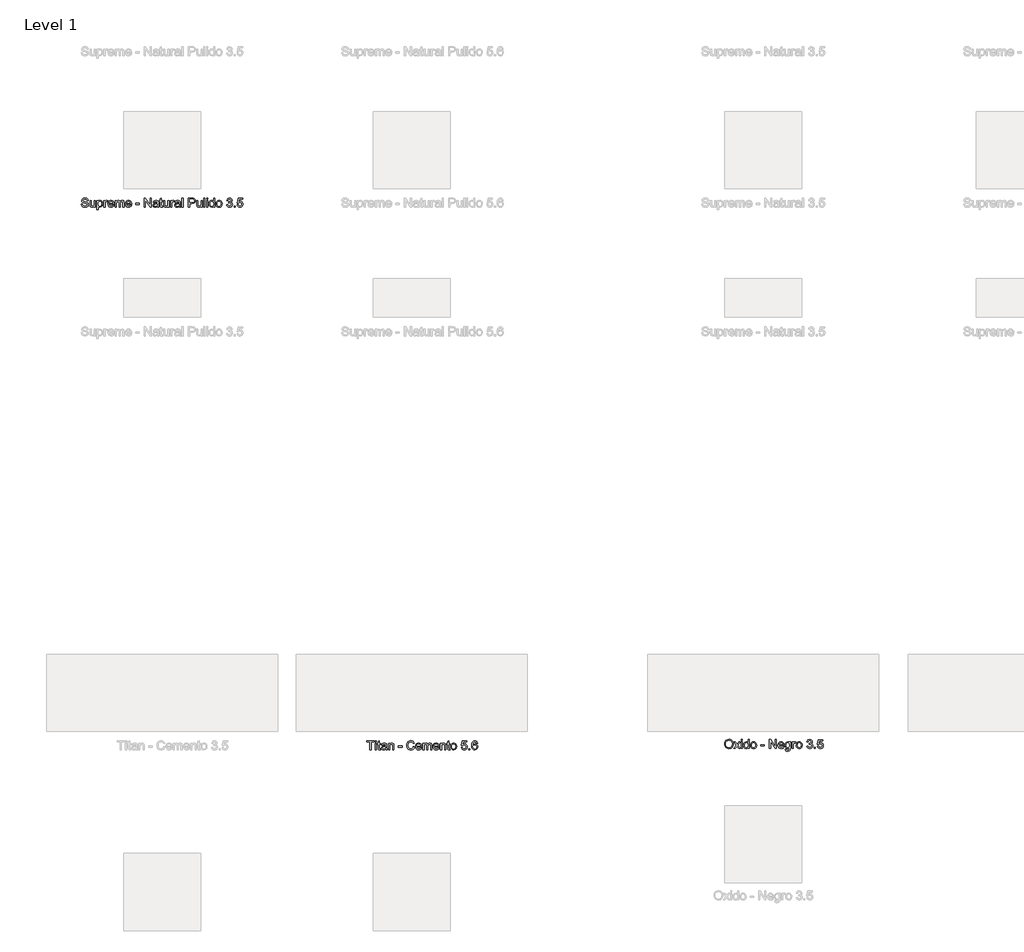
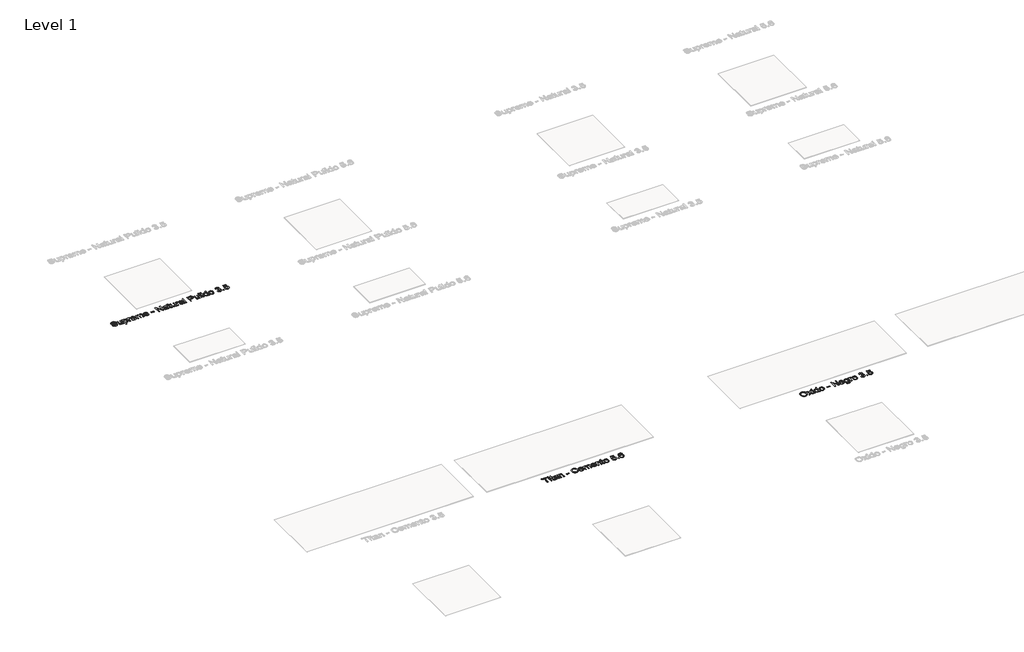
# One storey, part 36 of 80: 3 proxies.
"""IFC4 building model written with IfcOpenShell, lengths in millimetres."""

import ifcopenshell
import ifcopenshell.guid

model = None  # the IFC model being written
_history = None  # IfcOwnerHistory: only IFC2X3 demands one
_inside = {}  # id of a spatial element -> (the spatial element, [elements in it])
_under = {}  # id of a project, library or spatial element -> (it, [spatial elements below it])
_declared = {}  # id of a project -> (the project, [libraries it declares])
_typed = {}  # id of a type object -> (the type object, [elements of that type])
_made_of = {}  # id of a material, layer set ... -> (it, [elements and type objects made of it])


def new_model(schema):
    """Start an empty IFC model of exactly this schema.

    Asked for "IFC4X3", IfcOpenShell would pick the latest addendum, in which some entities
    have other attributes; the version numbers below select the first issue.
    IFC2X3 requires an IfcOwnerHistory on every rooted entity: one is made here for all.
    """
    global model, _history
    if schema == "IFC4X3":
        model = ifcopenshell.file(schema_version=(4, 3, 0, 0))
    else:
        model = ifcopenshell.file(schema=schema)
    _inside.clear()
    _under.clear()
    _declared.clear()
    _typed.clear()
    _made_of.clear()
    _history = None
    if model.schema == "IFC2X3":
        org = make("IfcOrganization", Name="unknown")
        user = make(
            "IfcPersonAndOrganization",
            ThePerson=make("IfcPerson", FamilyName="unknown"),
            TheOrganization=org,
        )
        app = make(
            "IfcApplication",
            ApplicationDeveloper=org,
            Version="unknown",
            ApplicationFullName="unknown",
            ApplicationIdentifier="unknown",
        )
        _history = make(
            "IfcOwnerHistory",
            OwningUser=user,
            OwningApplication=app,
            ChangeAction="ADDED",
            CreationDate=0,
        )
    return model


def make(cls, **values):
    """One entity of the class cls with the attributes given. An attribute that is None is left unset."""
    return model.create_entity(
        cls, **{name: value for name, value in values.items() if value is not None}
    )


def rooted(cls, **values):
    """An entity with a GlobalId (a new one), such as an element, a storey or a relation."""
    return make(cls, GlobalId=ifcopenshell.guid.new(), OwnerHistory=_history, **values)


def si_unit(unit_type, name, prefix=None):
    """IfcSIUnit, for example si_unit("LENGTHUNIT", "METRE", prefix="MILLI")."""
    return make("IfcSIUnit", UnitType=unit_type, Prefix=prefix, Name=name)


def assignment(units):
    """IfcUnitAssignment: the units of a project."""
    return None if units is None else make("IfcUnitAssignment", Units=units)


def point(xyz):
    """IfcCartesianPoint."""
    return None if xyz is None else make("IfcCartesianPoint", Coordinates=xyz)


def direction(xyz):
    """IfcDirection."""
    return None if xyz is None else make("IfcDirection", DirectionRatios=xyz)


def frame(location, z_axis=None, x_axis=None):
    """IfcAxis2Placement3D, a coordinate frame: its origin and axes. An axis left out is left unset."""
    return make(
        "IfcAxis2Placement3D",
        Location=point(location),
        Axis=direction(z_axis),
        RefDirection=direction(x_axis),
    )


def origin():
    """The frame at (0, 0, 0) with its axes left unset."""
    return frame((0.0, 0.0, 0.0))


def origin_with_axes():
    """The frame at (0, 0, 0) with the z axis (0, 0, 1) and the x axis (1, 0, 0) written out."""
    return frame((0.0, 0.0, 0.0), z_axis=(0.0, 0.0, 1.0), x_axis=(1.0, 0.0, 0.0))


def place(relative_to, where):
    """IfcLocalPlacement: puts the frame where relative to a parent placement (None: the world)."""
    return make(
        "IfcLocalPlacement", PlacementRelTo=relative_to, RelativePlacement=where
    )


def context(
    kind, dimensions, precision=None, world=None, true_north=None, identifier=None
):
    """IfcGeometricRepresentationContext, for example the 3D "Model" context."""
    return make(
        "IfcGeometricRepresentationContext",
        ContextIdentifier=identifier,
        ContextType=kind,
        CoordinateSpaceDimension=dimensions,
        Precision=precision,
        WorldCoordinateSystem=world,
        TrueNorth=true_north,
    )


def project(units=None, contexts=None):
    """IfcProject with its units and contexts."""
    return rooted(
        "IfcProject",
        Name="project",
        RepresentationContexts=contexts,
        UnitsInContext=assignment(units),
    )


def spatial(cls, under=None, at=None, **own):
    """A site, building, storey or space (cls), placed at a placement, below another one or the project."""
    s = rooted(cls, ObjectPlacement=at, **own)
    if under is not None:
        _under.setdefault(under.id(), (under, []))[1].append(s)
    return s


def polyline(points):
    """IfcPolyline through the points."""
    return make("IfcPolyline", Points=[point(p) for p in points])


def outline(outer, holes=None, kind="AREA"):
    """IfcArbitraryClosedProfileDef: a profile drawn as a closed curve; with holes, ...WithVoids."""
    if holes is None:
        return make("IfcArbitraryClosedProfileDef", ProfileType=kind, OuterCurve=outer)
    return make(
        "IfcArbitraryProfileDefWithVoids",
        ProfileType=kind,
        OuterCurve=outer,
        InnerCurves=holes,
    )


def extrude(swept, where, along, depth):
    """IfcExtrudedAreaSolid: the profile swept, set in the frame where, extruded along a direction by depth."""
    return make(
        "IfcExtrudedAreaSolid",
        SweptArea=swept,
        Position=where,
        ExtrudedDirection=direction(along),
        Depth=depth,
    )


def shape(context_of_items, identifier, shape_type, items):
    """IfcShapeRepresentation: the items that make up one representation, for example the "Body"."""
    return make(
        "IfcShapeRepresentation",
        ContextOfItems=context_of_items,
        RepresentationIdentifier=identifier,
        RepresentationType=shape_type,
        Items=items,
    )


def made_of(thing, what):
    """Note that an element or type object is made of a material, layer set ...; save() writes the relation."""
    if what is not None:
        _made_of.setdefault(what.id(), (what, []))[1].append(thing)
    return thing


def element(
    cls,
    number,
    at=None,
    inside=None,
    cuts=None,
    type_object=None,
    material=None,
    context=None,
    identifier="Body",
    shape_type=None,
    held_by="IfcProductDefinitionShape",
    body=None,
    shapes=None,
    **own,
):
    """One element of the class cls, such as IfcWall. Its Tag is "e" and its number.

    at: its placement. inside: the storey or other place that contains it. cuts: it is an
    opening in that element (IfcRelVoidsElement). A single representation is given by context,
    identifier, shape_type and body (its items); several are given by shapes. held_by: the class
    of the entity that holds the representations. save() writes the other relations.
    """
    e = rooted(cls, Tag="e%d" % number, ObjectPlacement=at, **own)
    if body is not None:
        shapes = [shape(context, identifier, shape_type, body)]
    if shapes is not None:
        e.Representation = make(held_by, Representations=shapes)
    if inside is not None:
        _inside.setdefault(inside.id(), (inside, []))[1].append(e)
    if cuts is not None:
        rooted(
            "IfcRelVoidsElement", RelatingBuildingElement=cuts, RelatedOpeningElement=e
        )
    if type_object is not None:
        _typed.setdefault(type_object.id(), (type_object, []))[1].append(e)
    return made_of(e, material)


def aggregate(whole, parts):
    """IfcRelAggregates: a whole, such as a stair, and the parts it consists of."""
    return rooted("IfcRelAggregates", RelatingObject=whole, RelatedObjects=parts)


def save(model, path):
    """Write the relations noted so far, then the file.

    IfcRelAggregates (storeys below a building ...), IfcRelContainedInSpatialStructure (elements
    in a storey), IfcRelDefinesByType, IfcRelAssociatesMaterial and IfcRelDeclares: one each for
    every whole, place, type object, material and project.
    """
    for whole, parts in _under.values():
        aggregate(whole, parts)
    for where, things in _inside.values():
        rooted(
            "IfcRelContainedInSpatialStructure",
            RelatedElements=things,
            RelatingStructure=where,
        )
    for kind, things in _typed.values():
        rooted("IfcRelDefinesByType", RelatedObjects=things, RelatingType=kind)
    for what, things in _made_of.values():
        rooted("IfcRelAssociatesMaterial", RelatedObjects=things, RelatingMaterial=what)
    for by, libraries in _declared.values():
        rooted("IfcRelDeclares", RelatingContext=by, RelatedDefinitions=libraries)
    model.write(path)


model = new_model("IFC4")

# Units and contexts
model_context = context("Model", 3, world=origin())
ifc_project = project(units=[si_unit("LENGTHUNIT", "METRE", prefix="MILLI")], contexts=[model_context])

# Site, building, storey
site = spatial("IfcSite", under=ifc_project)
building = spatial("IfcBuilding", under=site)
storey = spatial("IfcBuildingStorey", under=building, Name="Level 1", Elevation=0.0)

# Proxies
placement = place(None, origin())
element("IfcBuildingElementProxy", 1, Name="24\" Arial", ObjectType="24\" Arial", at=placement, inside=storey, context=model_context, shape_type="SweptSolid", body=[
    extrude(outline(polyline([(8229.846969, -7661.3584739), (8229.846969, -7557.9738585), (8191.0777383, -7557.9738585), (8191.0777383, -7543.2046277), (8283.3854306, -7543.2046277), (8283.3854306, -7557.9738585), (8244.6161998, -7557.9738585), (8244.6161998, -7661.3584739), (8229.846969, -7661.3584739)])), origin_with_axes(), (0.0, 0.0, 1.0), 2.0),
    extrude(outline(polyline([(8298.1546613, -7661.3584739), (8298.1546613, -7574.5892431), (8312.9238921, -7574.5892431), (8312.9238921, -7661.3584739), (8298.1546613, -7661.3584739)])), origin_with_axes(), (0.0, 0.0, 1.0), 2.0),
    extrude(outline(polyline([(8298.1546613, -7557.9738585), (8298.1546613, -7543.2046277), (8312.9238921, -7543.2046277), (8312.9238921, -7557.9738585), (8298.1546613, -7557.9738585)])), origin_with_axes(), (0.0, 0.0, 1.0), 2.0),
    extrude(outline(polyline([(8366.4623536, -7649.0411662), (8368.3085075, -7661.7911662), (8357.2604306, -7663.2046277), (8344.8854306, -7660.7527046), (8338.7123536, -7654.3200123), (8336.9238921, -7637.560397), (8336.9238921, -7589.3584739), (8325.846969, -7589.3584739), (8325.846969, -7574.5892431), (8336.9238921, -7574.5892431), (8336.9238921, -7553.5027046), (8351.6931229, -7544.8200123), (8351.6931229, -7574.5892431), (8366.4623536, -7574.5892431), (8366.4623536, -7589.3584739), (8351.6931229, -7589.3584739), (8351.6931229, -7637.1277046), (8352.471969, -7644.7430893), (8354.9960075, -7647.4402046), (8360.0296613, -7648.435397), (8366.4623536, -7649.0411662)])), origin_with_axes(), (0.0, 0.0, 1.0), 2.0),
    extrude(outline(polyline([(8436.6161998, -7650.2815508), (8422.2940844, -7660.2911662), (8406.471969, -7663.2046277), (8394.1294209, -7661.4522239), (8385.0248536, -7656.1950123), (8379.4106709, -7648.2118393), (8377.5392767, -7638.2815508), (8380.3661998, -7626.5988585), (8387.7940844, -7618.1180893), (8398.1354306, -7613.2719354), (8410.9142767, -7611.0507816), (8436.5296613, -7605.9738585), (8436.6161998, -7602.685397), (8432.5488921, -7591.7815508), (8416.221969, -7587.51232), (8401.2796613, -7590.3536662), (8394.1546613, -7600.435397), (8379.3854306, -7598.5892431), (8385.7748536, -7584.1661662), (8398.6402383, -7575.7142431), (8418.1258152, -7572.7430893), (8436.0248536, -7575.3680893), (8446.1354306, -7581.9594354), (8450.6642767, -7591.9834739), (8451.3854306, -7604.9065508), (8451.3854306, -7623.2815508), (8452.1354306, -7648.9402046), (8455.0777383, -7661.3584739), (8440.3085075, -7661.3584739), (8436.6161998, -7650.2815508)]), holes=[polyline([(8436.6161998, -7620.7430893), (8412.7892767, -7625.2719354), (8400.0825459, -7627.6661662), (8394.3277383, -7631.560397), (8392.3085075, -7637.2430893), (8396.7075459, -7645.2334739), (8409.6161998, -7648.435397), (8424.5585075, -7644.9017431), (8434.1931229, -7636.3488585), (8436.5296613, -7624.9257816), (8436.6161998, -7620.7430893)])]), origin_with_axes(), (0.0, 0.0, 1.0), 2.0),
    extrude(outline(polyline([(8471.6931229, -7661.3584739), (8471.6931229, -7574.5892431), (8486.4623536, -7574.5892431), (8486.4623536, -7586.7046277), (8497.7556229, -7576.2334739), (8513.1738921, -7572.7430893), (8527.1210075, -7575.5555893), (8536.6402383, -7582.9402046), (8541.0681229, -7593.8007816), (8541.846969, -7608.0796277), (8541.846969, -7661.3584739), (8527.0777383, -7661.3584739), (8527.0777383, -7610.0700123), (8525.3758152, -7597.0027046), (8519.3613921, -7590.0940508), (8509.221969, -7587.51232), (8493.1979306, -7593.310397), (8488.1462479, -7601.7118393), (8486.4623536, -7615.3200123), (8486.4623536, -7661.3584739), (8471.6931229, -7661.3584739)])), origin_with_axes(), (0.0, 0.0, 1.0), 2.0),
    extrude(outline(polyline([(8600.9238921, -7626.2815508), (8600.9238921, -7611.51232), (8647.0777383, -7611.51232), (8647.0777383, -7626.2815508), (8600.9238921, -7626.2815508)])), origin_with_axes(), (0.0, 0.0, 1.0), 2.0),
    extrude(outline(polyline([(8794.7700459, -7619.3584739), (8809.5392767, -7623.1661662), (8802.7243729, -7640.3765027), (8792.0296613, -7652.94982), (8777.9815844, -7660.6409258), (8761.1065844, -7663.2046277), (8743.9755748, -7661.2647239), (8730.3710075, -7655.4450123), (8719.9431229, -7645.9474162), (8712.3421613, -7632.9738585), (8707.7015363, -7617.7214546), (8706.1546613, -7601.38732), (8707.9034594, -7584.1589546), (8713.1498536, -7569.2815508), (8721.6198056, -7557.2274643), (8733.0392767, -7548.4690508), (8746.5825459, -7543.1361181), (8761.4238921, -7541.3584739), (8777.6174017, -7543.6589546), (8791.0056229, -7550.560397), (8801.1702863, -7561.63732), (8807.6931229, -7576.4642431), (8792.9238921, -7579.9834739), (8787.8036998, -7569.2130412), (8780.8085075, -7561.82482), (8771.8517767, -7557.5519835), (8760.846969, -7556.1277046), (8748.1618729, -7557.7070316), (8737.7411998, -7562.4450123), (8729.8337479, -7569.8440508), (8724.6883152, -7579.4065508), (8720.9238921, -7601.3584739), (8725.3806229, -7626.8007816), (8731.0777383, -7636.3019835), (8739.2556229, -7643.0555893), (8759.6354306, -7648.435397), (8771.9635556, -7646.6036662), (8782.2363921, -7641.1084739), (8789.9924017, -7632.0075123), (8794.7700459, -7619.3584739)])), origin_with_axes(), (0.0, 0.0, 1.0), 2.0),
    extrude(outline(polyline([(8888.7508152, -7635.51232), (8903.2315844, -7637.3584739), (8898.0140363, -7648.2695316), (8889.6883152, -7656.4257816), (8878.4419209, -7661.5099162), (8864.4623536, -7663.2046277), (8847.1330267, -7660.2803489), (8833.7988921, -7651.5075123), (8825.2964883, -7637.4558296), (8822.4623536, -7618.6950123), (8825.3253344, -7599.3031854), (8833.9142767, -7584.8007816), (8847.0681229, -7575.7575123), (8863.6258152, -7572.7430893), (8879.6678825, -7575.7503008), (8892.4863921, -7584.7719354), (8900.8914402, -7599.2454931), (8903.6931229, -7618.6084739), (8903.6065844, -7622.5892431), (8837.2315844, -7622.5892431), (8839.7880748, -7633.6445316), (8845.7267767, -7641.7719354), (8854.2976902, -7646.7695316), (8864.7508152, -7648.435397), (8879.2315844, -7645.3488585), (8888.7508152, -7635.51232)]), holes=[polyline([(8837.2315844, -7607.8200123), (8888.9238921, -7607.8200123), (8883.0104306, -7594.435397), (8874.3998536, -7589.2430893), (8863.5681229, -7587.51232), (8845.3806229, -7593.0363585), (8839.6582671, -7599.4942912), (8837.2315844, -7607.8200123)])]), origin_with_axes(), (0.0, 0.0, 1.0), 2.0),
    extrude(outline(polyline([(8918.4623536, -7661.3584739), (8918.4623536, -7574.5892431), (8933.2315844, -7574.5892431), (8933.2315844, -7588.8680893), (8943.3854306, -7577.1709739), (8957.8373536, -7572.7430893), (8972.6354306, -7577.2575123), (8980.7700459, -7589.9065508), (8992.2940844, -7577.0339546), (9006.846969, -7572.7430893), (9017.9491325, -7574.527945), (9026.159469, -7579.8825123), (9031.2327863, -7588.951022), (9032.9238921, -7601.8777046), (9032.9238921, -7661.3584739), (9018.1546613, -7661.3584739), (9018.1546613, -7608.2238585), (9016.784469, -7595.8921277), (9011.8229306, -7589.8200123), (9003.3854306, -7587.51232), (8995.3842286, -7588.9906854), (8988.8613921, -7593.4257816), (8984.5236517, -7601.1204931), (8983.0777383, -7612.3777046), (8983.0777383, -7661.3584739), (8968.3085075, -7661.3584739), (8968.3085075, -7606.5796277), (8964.8902383, -7592.2719354), (8953.6835075, -7587.51232), (8942.7508152, -7590.685397), (8935.4815844, -7599.9738585), (8933.2315844, -7617.5988585), (8933.2315844, -7661.3584739), (8918.4623536, -7661.3584739)])), origin_with_axes(), (0.0, 0.0, 1.0), 2.0),
    extrude(outline(polyline([(9115.8277383, -7635.51232), (9130.3085075, -7637.3584739), (9125.0909594, -7648.2695316), (9116.7652383, -7656.4257816), (9105.518844, -7661.5099162), (9091.5392767, -7663.2046277), (9074.2099498, -7660.2803489), (9060.8758152, -7651.5075123), (9052.3734113, -7637.4558296), (9049.5392767, -7618.6950123), (9052.4022575, -7599.3031854), (9060.9911998, -7584.8007816), (9074.1450459, -7575.7575123), (9090.7027383, -7572.7430893), (9106.7448056, -7575.7503008), (9119.5633152, -7584.7719354), (9127.9683633, -7599.2454931), (9130.7700459, -7618.6084739), (9130.6835075, -7622.5892431), (9064.3085075, -7622.5892431), (9066.8649979, -7633.6445316), (9072.8036998, -7641.7719354), (9081.3746133, -7646.7695316), (9091.8277383, -7648.435397), (9106.3085075, -7645.3488585), (9115.8277383, -7635.51232)]), holes=[polyline([(9064.3085075, -7607.8200123), (9116.0008152, -7607.8200123), (9110.0873536, -7594.435397), (9101.4767767, -7589.2430893), (9090.6450459, -7587.51232), (9072.4575459, -7593.0363585), (9066.7351902, -7599.4942912), (9064.3085075, -7607.8200123)])]), origin_with_axes(), (0.0, 0.0, 1.0), 2.0),
    extrude(outline(polyline([(9145.5392767, -7661.3584739), (9145.5392767, -7574.5892431), (9160.3085075, -7574.5892431), (9160.3085075, -7586.7046277), (9171.6017767, -7576.2334739), (9187.0200459, -7572.7430893), (9200.9671613, -7575.5555893), (9210.4863921, -7582.9402046), (9214.9142767, -7593.8007816), (9215.6931229, -7608.0796277), (9215.6931229, -7661.3584739), (9200.9238921, -7661.3584739), (9200.9238921, -7610.0700123), (9199.221969, -7597.0027046), (9193.2075459, -7590.0940508), (9183.0681229, -7587.51232), (9167.0440844, -7593.310397), (9161.9924017, -7601.7118393), (9160.3085075, -7615.3200123), (9160.3085075, -7661.3584739), (9145.5392767, -7661.3584739)])), origin_with_axes(), (0.0, 0.0, 1.0), 2.0),
    extrude(outline(polyline([(9267.3854306, -7649.0411662), (9269.2315844, -7661.7911662), (9258.1835075, -7663.2046277), (9245.8085075, -7660.7527046), (9239.6354306, -7654.3200123), (9237.846969, -7637.560397), (9237.846969, -7589.3584739), (9226.7700459, -7589.3584739), (9226.7700459, -7574.5892431), (9237.846969, -7574.5892431), (9237.846969, -7553.5027046), (9252.6161998, -7544.8200123), (9252.6161998, -7574.5892431), (9267.3854306, -7574.5892431), (9267.3854306, -7589.3584739), (9252.6161998, -7589.3584739), (9252.6161998, -7637.1277046), (9253.3950459, -7644.7430893), (9255.9190844, -7647.4402046), (9260.9527383, -7648.435397), (9267.3854306, -7649.0411662)])), origin_with_axes(), (0.0, 0.0, 1.0), 2.0),
    extrude(outline(polyline([(9278.4623536, -7617.9738585), (9281.6570652, -7597.0531854), (9291.2411998, -7582.3488585), (9303.0825459, -7575.1445316), (9317.2604306, -7572.7430893), (9332.7760556, -7575.6673681), (9345.1690844, -7584.4402046), (9353.2928825, -7598.3692912), (9356.0008152, -7616.76232), (9351.2123536, -7643.0411662), (9337.2652383, -7657.9113585), (9317.2604306, -7663.2046277), (9301.5573056, -7660.2911662), (9289.1786998, -7651.5507816), (9281.1414402, -7637.3296277), (9278.4623536, -7617.9738585)]), holes=[polyline([(9293.2315844, -7617.9450123), (9294.940719, -7631.3115989), (9300.0681229, -7640.8344354), (9307.784469, -7646.5351566), (9317.2604306, -7648.435397), (9326.6931229, -7646.5243393), (9334.3950459, -7640.7911662), (9339.5224498, -7631.1421277), (9341.2315844, -7617.4834739), (9339.5116325, -7604.5063104), (9334.3517767, -7595.1132816), (9326.6390363, -7589.4125604), (9317.2604306, -7587.51232), (9307.784469, -7589.4053489), (9300.0681229, -7595.0844354), (9294.940719, -7604.5856373), (9293.2315844, -7617.9450123)])]), origin_with_axes(), (0.0, 0.0, 1.0), 2.0),
    extrude(outline(polyline([(9415.0777383, -7629.9738585), (9429.846969, -7628.1277046), (9437.2892767, -7643.3440508), (9452.721969, -7648.435397), (9463.3085075, -7646.6649643), (9471.2411998, -7641.3536662), (9476.1955267, -7633.1144835), (9477.846969, -7622.560397), (9476.300094, -7612.622897), (9471.659469, -7605.0219354), (9463.8890363, -7600.1974162), (9452.9527383, -7598.5892431), (9439.9863921, -7601.1565508), (9431.6931229, -7607.8200123), (9416.9238921, -7605.9738585), (9429.846969, -7545.0507816), (9487.0777383, -7545.0507816), (9487.0777383, -7559.8200123), (9441.7892767, -7559.8200123), (9435.471969, -7592.3584739), (9446.0224498, -7585.9546277), (9457.0777383, -7583.8200123), (9470.8770171, -7586.466647), (9482.3325459, -7594.4065508), (9490.0452863, -7606.5075123), (9492.6161998, -7621.63732), (9490.3012959, -7636.4065508), (9483.3565844, -7649.0411662), (9470.0585075, -7659.6637623), (9452.6642767, -7663.2046277), (9438.1582671, -7660.9293873), (9426.6017767, -7654.1036662), (9418.6799017, -7643.5207335), (9415.0777383, -7629.9738585)])), origin_with_axes(), (0.0, 0.0, 1.0), 2.0),
    extrude(outline(polyline([(9512.9238921, -7661.3584739), (9512.9238921, -7646.5892431), (9527.6931229, -7646.5892431), (9527.6931229, -7661.3584739), (9512.9238921, -7661.3584739)])), origin_with_axes(), (0.0, 0.0, 1.0), 2.0),
    extrude(outline(polyline([(9627.3854306, -7574.5892431), (9612.6161998, -7576.435397), (9607.0200459, -7564.1180893), (9600.3205267, -7559.5099162), (9592.221969, -7557.9738585), (9578.8950459, -7561.5507816), (9568.8133152, -7574.9786662), (9564.6161998, -7601.3007816), (9577.6402383, -7589.5171277), (9593.7796613, -7585.6661662), (9607.4238921, -7588.2983777), (9618.8758152, -7596.1950123), (9626.6426421, -7608.2599162), (9629.2315844, -7623.3969354), (9624.3565844, -7643.7767431), (9610.9431229, -7658.19982), (9591.5873536, -7663.2046277), (9574.831344, -7659.88732), (9561.4863921, -7649.935397), (9552.7568248, -7632.3680893), (9549.846969, -7606.2046277), (9553.0777383, -7576.7887623), (9562.7700459, -7556.6757816), (9576.003219, -7546.5724162), (9593.1450459, -7543.2046277), (9606.1041806, -7545.2887623), (9616.4815844, -7551.5411662), (9623.7508152, -7561.4714546), (9627.3854306, -7574.5892431)]), holes=[polyline([(9564.6161998, -7623.1661662), (9568.034469, -7635.9594354), (9577.1210075, -7645.247897), (9590.4335075, -7648.435397), (9600.1799017, -7646.7839546), (9607.8421613, -7641.8296277), (9612.8073056, -7634.0411662), (9614.4623536, -7623.88732), (9612.8289402, -7614.1409258), (9607.9286998, -7606.7094354), (9600.1366325, -7602.0039066), (9589.8277383, -7600.435397), (9580.0957671, -7602.0039066), (9571.9575459, -7606.7094354), (9566.4515363, -7613.9606373), (9564.6161998, -7623.1661662)])]), origin_with_axes(), (0.0, 0.0, 1.0), 2.0),
])
element("IfcBuildingElementProxy", 2, Name="24\" Arial", ObjectType="24\" Arial", at=placement, inside=storey, context=model_context, shape_type="SweptSolid", body=[
    extrude(outline(polyline([(12831.3854306, -7587.3504862), (12835.3229306, -7561.2230824), (12847.1354306, -7541.4562555), (12865.1714883, -7529.0163516), (12887.7796613, -7524.869717), (12903.2772575, -7526.8168324), (12917.1738921, -7532.6581785), (12928.7123536, -7541.9826978), (12937.1354306, -7554.3793324), (12942.284469, -7569.2495247), (12944.0008152, -7585.994717), (12942.1943248, -7602.963467), (12936.7748536, -7618.0427939), (12928.0416806, -7630.4610632), (12916.2940844, -7639.4466401), (12902.5164402, -7644.8985632), (12887.6931229, -7646.7158709), (12871.9575459, -7644.7074574), (12857.9815844, -7638.682217), (12846.471969, -7629.1846209), (12838.1354306, -7616.7591401), (12833.0729306, -7602.4622651), (12831.3854306, -7587.3504862)]), holes=[polyline([(12846.1546613, -7587.494717), (12849.1077863, -7605.9778901), (12857.9671613, -7620.0620247), (12871.2832671, -7628.9754862), (12887.6065844, -7631.9466401), (12904.1678825, -7628.9466401), (12917.5056229, -7619.9466401), (12926.300094, -7605.4298132), (12929.2315844, -7585.8793324), (12924.2123536, -7561.5043324), (12918.0356709, -7552.2627459), (12909.5440844, -7545.3649093), (12887.8661998, -7539.6389478), (12871.9791806, -7542.3973612), (12858.471969, -7550.6726016), (12849.2339883, -7565.3949574), (12846.1546613, -7587.494717)])]), origin_with_axes(), (0.0, 0.0, 1.0), 2.0),
    extrude(outline(polyline([(12953.2315844, -7644.869717), (12984.7892767, -7601.2543324), (12955.0777383, -7558.1004862), (12972.846969, -7558.1004862), (12987.1835075, -7578.869717), (12993.8758152, -7588.6774093), (12999.6738921, -7580.6581785), (13016.0008152, -7558.1004862), (13033.7700459, -7558.1004862), (13002.5585075, -7601.2543324), (13032.6161998, -7644.869717), (13014.846969, -7644.869717), (12996.7604306, -7618.6485632), (12993.4431229, -7613.8601016), (12971.0008152, -7644.869717), (12953.2315844, -7644.869717)])), origin_with_axes(), (0.0, 0.0, 1.0), 2.0),
    extrude(outline(polyline([(13045.5392767, -7541.4851016), (13045.5392767, -7526.7158709), (13060.3085075, -7526.7158709), (13060.3085075, -7541.4851016), (13045.5392767, -7541.4851016)])), origin_with_axes(), (0.0, 0.0, 1.0), 2.0),
    extrude(outline(polyline([(13045.5392767, -7644.869717), (13045.5392767, -7558.1004862), (13060.3085075, -7558.1004862), (13060.3085075, -7644.869717), (13045.5392767, -7644.869717)])), origin_with_axes(), (0.0, 0.0, 1.0), 2.0),
    extrude(outline(polyline([(13136.0008152, -7644.869717), (13136.0008152, -7630.9370247), (13126.2291806, -7642.7711593), (13112.721969, -7646.7158709), (13094.4335075, -7641.0043324), (13081.5104306, -7625.0668324), (13076.9238921, -7601.5716401), (13081.1498536, -7578.0620247), (13086.4286998, -7568.7375055), (13093.8133152, -7561.8793324), (13112.6642767, -7556.2543324), (13126.2796613, -7560.2783709), (13136.0008152, -7570.7351016), (13136.0008152, -7526.7158709), (13150.7700459, -7526.7158709), (13150.7700459, -7644.869717), (13136.0008152, -7644.869717)]), holes=[polyline([(13091.6931229, -7601.5139478), (13093.3589883, -7614.8733228), (13098.3565844, -7624.3745247), (13105.6186036, -7630.0536112), (13114.0777383, -7631.9466401), (13122.5332671, -7630.1401497), (13129.6113921, -7624.7206785), (13134.4034594, -7615.5872651), (13136.0008152, -7602.6389478), (13134.3746133, -7588.4826978), (13129.4960075, -7578.6677939), (13122.237594, -7572.9346209), (13113.471969, -7571.0235632), (13104.9262959, -7572.8588997), (13097.9238921, -7578.3649093), (13093.2508152, -7587.822842), (13091.6931229, -7601.5139478)])]), origin_with_axes(), (0.0, 0.0, 1.0), 2.0),
    extrude(outline(polyline([(13169.2315844, -7601.4851016), (13172.4262959, -7580.5644285), (13182.0104306, -7565.8601016), (13193.8517767, -7558.6557747), (13208.0296613, -7556.2543324), (13223.5452863, -7559.1786112), (13235.9383152, -7567.9514478), (13244.0621133, -7581.8805343), (13246.7700459, -7600.2735632), (13241.9815844, -7626.5524093), (13228.034469, -7641.4226016), (13208.0296613, -7646.7158709), (13192.3265363, -7643.8024093), (13179.9479306, -7635.0620247), (13171.9106709, -7620.8408709), (13169.2315844, -7601.4851016)]), holes=[polyline([(13184.0008152, -7601.4562555), (13185.7099498, -7614.822842), (13190.8373536, -7624.3456785), (13198.5536998, -7630.0463997), (13208.0296613, -7631.9466401), (13217.4623536, -7630.0355824), (13225.1642767, -7624.3024093), (13230.2916806, -7614.6533709), (13232.0008152, -7600.994717), (13230.2808633, -7588.0175535), (13225.1210075, -7578.6245247), (13217.4082671, -7572.9238035), (13208.0296613, -7571.0235632), (13198.5536998, -7572.916592), (13190.8373536, -7578.5956785), (13185.7099498, -7588.0968805), (13184.0008152, -7601.4562555)])]), origin_with_axes(), (0.0, 0.0, 1.0), 2.0),
    extrude(outline(polyline([(13302.1546613, -7609.7927939), (13302.1546613, -7595.0235632), (13348.3085075, -7595.0235632), (13348.3085075, -7609.7927939), (13302.1546613, -7609.7927939)])), origin_with_axes(), (0.0, 0.0, 1.0), 2.0),
    extrude(outline(polyline([(13412.9238921, -7644.869717), (13412.9238921, -7526.7158709), (13428.7315844, -7526.7158709), (13490.4623536, -7620.3216401), (13490.4623536, -7526.7158709), (13505.2315844, -7526.7158709), (13505.2315844, -7644.869717), (13489.4238921, -7644.869717), (13427.6931229, -7551.2351016), (13427.6931229, -7644.869717), (13412.9238921, -7644.869717)])), origin_with_axes(), (0.0, 0.0, 1.0), 2.0),
    extrude(outline(polyline([(13589.9815844, -7619.0235632), (13604.4623536, -7620.869717), (13599.2448056, -7631.7807747), (13590.9190844, -7639.9370247), (13579.6726902, -7645.0211593), (13565.6931229, -7646.7158709), (13548.3637959, -7643.791592), (13535.0296613, -7635.0187555), (13526.5272575, -7620.9670728), (13523.6931229, -7602.2062555), (13526.5561036, -7582.8144285), (13535.1450459, -7568.3120247), (13548.2988921, -7559.2687555), (13564.8565844, -7556.2543324), (13580.8986517, -7559.2615439), (13593.7171613, -7568.2831785), (13602.1222094, -7582.7567362), (13604.9238921, -7602.119717), (13604.8373536, -7606.1004862), (13538.4623536, -7606.1004862), (13541.018844, -7617.1557747), (13546.9575459, -7625.2831785), (13555.5284594, -7630.2807747), (13565.9815844, -7631.9466401), (13580.4623536, -7628.8601016), (13589.9815844, -7619.0235632)]), holes=[polyline([(13538.4623536, -7591.3312555), (13590.1546613, -7591.3312555), (13584.2411998, -7577.9466401), (13575.6306229, -7572.7543324), (13564.7988921, -7571.0235632), (13546.6113921, -7576.5476016), (13540.8890363, -7583.0055343), (13538.4623536, -7591.3312555)])]), origin_with_axes(), (0.0, 0.0, 1.0), 2.0),
    extrude(outline(polyline([(13616.0008152, -7652.2543324), (13630.7700459, -7654.1004862), (13635.5585075, -7661.8889478), (13649.8950459, -7665.1774093), (13665.0104306, -7661.4562555), (13672.221969, -7651.0139478), (13673.2315844, -7633.7927939), (13662.8325459, -7642.1004862), (13650.1546613, -7644.869717), (13634.9274979, -7641.6461593), (13623.5729306, -7631.9754862), (13616.5092286, -7617.7976016), (13614.1546613, -7601.0524093), (13618.3806229, -7578.1629862), (13630.6113921, -7561.9658709), (13649.4335075, -7556.2543324), (13662.6089883, -7559.4851016), (13673.2315844, -7569.1774093), (13673.2315844, -7558.1004862), (13688.0008152, -7558.1004862), (13688.0008152, -7633.0139478), (13683.9623536, -7661.7014478), (13671.1690844, -7675.0427939), (13649.6065844, -7679.9466401), (13635.8649979, -7678.2194766), (13625.0440844, -7673.0379862), (13618.1029786, -7664.3877459), (13616.0008152, -7652.2543324)]), holes=[polyline([(13628.9238921, -7600.0427939), (13630.4996133, -7613.5896689), (13635.2267767, -7622.9033709), (13642.3337479, -7628.3012074), (13651.0488921, -7630.1004862), (13659.6991325, -7628.3120247), (13666.8421613, -7622.9466401), (13671.6342286, -7613.7519285), (13673.2315844, -7600.4754862), (13671.5873536, -7587.6713997), (13666.6546613, -7578.4514478), (13659.4070652, -7572.8805343), (13650.8181229, -7571.0235632), (13642.3842286, -7572.8516882), (13635.3133152, -7578.3360632), (13630.5212479, -7587.4189959), (13628.9238921, -7600.0427939)])]), origin_with_axes(), (0.0, 0.0, 1.0), 2.0),
    extrude(outline(polyline([(13710.1546613, -7644.869717), (13710.1546613, -7558.1004862), (13723.0777383, -7558.1004862), (13723.0777383, -7570.9370247), (13732.2508152, -7559.1101016), (13741.4815844, -7556.2543324), (13756.3085075, -7560.8120247), (13751.3758152, -7574.0524093), (13740.9911998, -7571.0235632), (13732.6402383, -7573.9370247), (13727.3181229, -7582.0139478), (13724.9238921, -7599.2639478), (13724.9238921, -7644.869717), (13710.1546613, -7644.869717)])), origin_with_axes(), (0.0, 0.0, 1.0), 2.0),
    extrude(outline(polyline([(13761.846969, -7601.4851016), (13765.0416806, -7580.5644285), (13774.6258152, -7565.8601016), (13786.4671613, -7558.6557747), (13800.6450459, -7556.2543324), (13816.1606709, -7559.1786112), (13828.5536998, -7567.9514478), (13836.6774979, -7581.8805343), (13839.3854306, -7600.2735632), (13834.596969, -7626.5524093), (13820.6498536, -7641.4226016), (13800.6450459, -7646.7158709), (13784.9419209, -7643.8024093), (13772.5633152, -7635.0620247), (13764.5260556, -7620.8408709), (13761.846969, -7601.4851016)]), holes=[polyline([(13776.6161998, -7601.4562555), (13778.3253344, -7614.822842), (13783.4527383, -7624.3456785), (13791.1690844, -7630.0463997), (13800.6450459, -7631.9466401), (13810.0777383, -7630.0355824), (13817.7796613, -7624.3024093), (13822.9070652, -7614.6533709), (13824.6161998, -7600.994717), (13822.8962479, -7588.0175535), (13817.7363921, -7578.6245247), (13810.0236517, -7572.9238035), (13800.6450459, -7571.0235632), (13791.1690844, -7572.916592), (13783.4527383, -7578.5956785), (13778.3253344, -7588.0968805), (13776.6161998, -7601.4562555)])]), origin_with_axes(), (0.0, 0.0, 1.0), 2.0),
    extrude(outline(polyline([(13898.4623536, -7613.4851016), (13913.2315844, -7611.6389478), (13921.3806229, -7627.1870247), (13936.6258152, -7631.9466401), (13946.7508152, -7630.3096209), (13954.5681229, -7625.3985632), (13959.565719, -7618.0716401), (13961.2315844, -7609.1870247), (13959.5801421, -7600.7531305), (13954.6258152, -7593.9129862), (13947.1258152, -7589.3805343), (13937.8373536, -7587.869717), (13927.4815844, -7589.4851016), (13929.1258152, -7574.7158709), (13931.4911998, -7574.8889478), (13948.2508152, -7570.6485632), (13953.8325459, -7565.2687555), (13955.6931229, -7557.6101016), (13950.2988921, -7546.057217), (13936.3950459, -7541.4851016), (13922.3181229, -7546.1004862), (13915.0777383, -7559.9466401), (13900.3085075, -7558.1004862), (13904.6570652, -7544.838467), (13912.3950459, -7534.9370247), (13922.9815844, -7528.7711593), (13935.8758152, -7526.7158709), (13953.6883152, -7530.7687555), (13966.1498536, -7541.8456785), (13970.4623536, -7556.744717), (13966.3661998, -7570.3601016), (13954.2508152, -7580.1389478), (13963.4960075, -7583.8745247), (13970.346969, -7590.2351016), (13974.5873536, -7598.8745247), (13976.0008152, -7609.4466401), (13973.1738921, -7623.8408709), (13964.6931229, -7635.869717), (13951.8926421, -7644.0043324), (13936.1065844, -7646.7158709), (13921.8277383, -7644.400967), (13910.2027383, -7637.4562555), (13902.1186036, -7626.8336593), (13898.4623536, -7613.4851016)])), origin_with_axes(), (0.0, 0.0, 1.0), 2.0),
    extrude(outline(polyline([(13996.3085075, -7644.869717), (13996.3085075, -7630.1004862), (14011.0777383, -7630.1004862), (14011.0777383, -7644.869717), (13996.3085075, -7644.869717)])), origin_with_axes(), (0.0, 0.0, 1.0), 2.0),
    extrude(outline(polyline([(14035.0777383, -7613.4851016), (14049.846969, -7611.6389478), (14057.2892767, -7626.8552939), (14072.721969, -7631.9466401), (14083.3085075, -7630.1762074), (14091.2411998, -7624.8649093), (14096.1955267, -7616.6257266), (14097.846969, -7606.0716401), (14096.300094, -7596.1341401), (14091.659469, -7588.5331785), (14083.8890363, -7583.7086593), (14072.9527383, -7582.1004862), (14059.9863921, -7584.6677939), (14051.6931229, -7591.3312555), (14036.9238921, -7589.4851016), (14049.846969, -7528.5620247), (14107.0777383, -7528.5620247), (14107.0777383, -7543.3312555), (14061.7892767, -7543.3312555), (14055.471969, -7575.869717), (14066.0224498, -7569.4658709), (14077.0777383, -7567.3312555), (14090.8770171, -7569.9778901), (14102.3325459, -7577.9177939), (14110.0452863, -7590.0187555), (14112.6161998, -7605.1485632), (14110.3012959, -7619.9177939), (14103.3565844, -7632.5524093), (14090.0585075, -7643.1750055), (14072.6642767, -7646.7158709), (14058.1582671, -7644.4406305), (14046.6017767, -7637.6149093), (14038.6799017, -7627.0319766), (14035.0777383, -7613.4851016)])), origin_with_axes(), (0.0, 0.0, 1.0), 2.0),
])
element("IfcBuildingElementProxy", 3, Name="24\" Arial", ObjectType="24\" Arial", at=placement, inside=storey, context=model_context, shape_type="SweptSolid", body=[
    extrude(outline(polyline([(4485.846969, -575.9830961), (4500.6161998, -575.9830961), (4505.3758152, -590.76675), (4517.0008152, -600.1129038), (4534.7123536, -603.6754038), (4550.1450459, -600.9782884), (4560.1113921, -593.5648269), (4563.3854306, -583.6561731), (4560.9335075, -574.4398269), (4550.8950459, -567.7330961), (4529.3902383, -562.0936731), (4506.2411998, -554.8100192), (4493.6786998, -543.8196346), (4489.5392767, -529.1369423), (4494.659469, -512.4205961), (4509.6161998, -500.6225192), (4531.5104306, -496.5984808), (4554.8758152, -500.8100192), (4570.4527383, -513.1850192), (4576.3085075, -531.6754038), (4561.5392767, -531.6754038), (4558.8277383, -522.8629038), (4553.1738921, -516.5023269), (4544.3397575, -512.6513654), (4532.0873536, -511.3677115), (4519.5464883, -512.6369423), (4510.9431229, -516.4446346), (4505.9671613, -522.048), (4504.3085075, -528.70425), (4509.0104306, -538.9446346), (4533.1258152, -547.1946346), (4559.2604306, -554.6080961), (4573.5536998, -566.57925), (4578.1546613, -583.2811731), (4572.8613921, -600.9494423), (4557.6306229, -613.8436731), (4535.2892767, -618.4446346), (4508.909469, -613.4830961), (4499.4226902, -607.26675), (4492.221969, -598.5407884), (4485.846969, -575.9830961)])), origin_with_axes(), (0.0, 0.0, 1.0), 2.0),
    extrude(outline(polyline([(4653.846969, -616.5984808), (4653.846969, -601.6850192), (4642.2796613, -614.2547308), (4627.1931229, -618.4446346), (4613.3036998, -615.5023269), (4603.7267767, -608.1177115), (4599.3277383, -597.2427115), (4598.4623536, -583.5119423), (4598.4623536, -529.82925), (4613.2315844, -529.82925), (4613.2315844, -576.5600192), (4614.1258152, -591.6177115), (4619.9671613, -600.4590577), (4630.971969, -603.6754038), (4643.3036998, -600.3869423), (4651.4527383, -591.4302115), (4653.846969, -574.9734808), (4653.846969, -529.82925), (4668.6161998, -529.82925), (4668.6161998, -616.5984808), (4653.846969, -616.5984808)])), origin_with_axes(), (0.0, 0.0, 1.0), 2.0),
    extrude(outline(polyline([(4688.9238921, -649.82925), (4688.9238921, -529.82925), (4703.6931229, -529.82925), (4703.6931229, -544.3100192), (4713.9046613, -532.0648269), (4727.6931229, -527.9830961), (4746.4142767, -533.6946346), (4758.6450459, -549.7907884), (4762.7700459, -572.5504038), (4758.1113921, -596.4782884), (4752.3998536, -605.8677115), (4744.5825459, -612.7763654), (4725.9046613, -618.4446346), (4713.0536998, -614.6513654), (4703.6931229, -605.0600192), (4703.6931229, -649.82925), (4688.9238921, -649.82925)]), holes=[polyline([(4703.6931229, -573.9061731), (4705.2904786, -587.1465577), (4710.0825459, -596.4061731), (4717.1534594, -601.8580961), (4725.5873536, -603.6754038), (4734.1582671, -601.7931923), (4741.409469, -596.1465577), (4746.3529786, -586.548), (4748.0008152, -572.8100192), (4746.3926421, -559.64175), (4741.5681229, -550.2523269), (4734.5080267, -544.6273269), (4726.1931229, -542.7523269), (4717.8457671, -544.7463173), (4710.5152383, -550.7282884), (4705.3986517, -560.5107404), (4703.6931229, -573.9061731)])]), origin_with_axes(), (0.0, 0.0, 1.0), 2.0),
    extrude(outline(polyline([(4779.3854306, -616.5984808), (4779.3854306, -529.82925), (4792.3085075, -529.82925), (4792.3085075, -542.6657884), (4801.4815844, -530.8388654), (4810.7123536, -527.9830961), (4825.5392767, -532.5407884), (4820.6065844, -545.7811731), (4810.221969, -542.7523269), (4801.8710075, -545.6657884), (4796.5488921, -553.7427115), (4794.1546613, -570.9927115), (4794.1546613, -616.5984808), (4779.3854306, -616.5984808)])), origin_with_axes(), (0.0, 0.0, 1.0), 2.0),
    extrude(outline(polyline([(4895.5200459, -590.7523269), (4910.0008152, -592.5984808), (4904.7832671, -603.5095384), (4896.4575459, -611.6657884), (4885.2111517, -616.7499231), (4871.2315844, -618.4446346), (4853.9022575, -615.5203558), (4840.5681229, -606.7475192), (4832.065719, -592.6958365), (4829.2315844, -573.9350192), (4832.0945652, -554.5431923), (4840.6835075, -540.0407884), (4853.8373536, -530.9975192), (4870.3950459, -527.9830961), (4886.4371133, -530.9903077), (4899.2556229, -540.0119423), (4907.6606709, -554.4855), (4910.4623536, -573.8484808), (4910.3758152, -577.82925), (4844.0008152, -577.82925), (4846.5573056, -588.8845384), (4852.4960075, -597.0119423), (4861.0669209, -602.0095384), (4871.5200459, -603.6754038), (4886.0008152, -600.5888654), (4895.5200459, -590.7523269)]), holes=[polyline([(4844.0008152, -563.0600192), (4895.6931229, -563.0600192), (4889.7796613, -549.6754038), (4881.1690844, -544.4830961), (4870.3373536, -542.7523269), (4852.1498536, -548.2763654), (4846.4274979, -554.7342981), (4844.0008152, -563.0600192)])]), origin_with_axes(), (0.0, 0.0, 1.0), 2.0),
    extrude(outline(polyline([(4925.2315844, -616.5984808), (4925.2315844, -529.82925), (4940.0008152, -529.82925), (4940.0008152, -544.1080961), (4950.1546613, -532.4109808), (4964.6065844, -527.9830961), (4979.4046613, -532.4975192), (4987.5392767, -545.1465577), (4999.0633152, -532.2739615), (5013.6161998, -527.9830961), (5024.7183633, -529.7679519), (5032.9286998, -535.1225192), (5038.0020171, -544.1910288), (5039.6931229, -557.1177115), (5039.6931229, -616.5984808), (5024.9238921, -616.5984808), (5024.9238921, -563.4638654), (5023.5536998, -551.1321346), (5018.5921613, -545.0600192), (5010.1546613, -542.7523269), (5002.1534594, -544.2306923), (4995.6306229, -548.6657884), (4991.2928825, -556.3605), (4989.846969, -567.6177115), (4989.846969, -616.5984808), (4975.0777383, -616.5984808), (4975.0777383, -561.8196346), (4971.659469, -547.5119423), (4960.4527383, -542.7523269), (4949.5200459, -545.9254038), (4942.2508152, -555.2138654), (4940.0008152, -572.8388654), (4940.0008152, -616.5984808), (4925.2315844, -616.5984808)])), origin_with_axes(), (0.0, 0.0, 1.0), 2.0),
    extrude(outline(polyline([(5122.596969, -590.7523269), (5137.0777383, -592.5984808), (5131.8601902, -603.5095384), (5123.534469, -611.6657884), (5112.2880748, -616.7499231), (5098.3085075, -618.4446346), (5080.9791806, -615.5203558), (5067.6450459, -606.7475192), (5059.1426421, -592.6958365), (5056.3085075, -573.9350192), (5059.1714883, -554.5431923), (5067.7604306, -540.0407884), (5080.9142767, -530.9975192), (5097.471969, -527.9830961), (5113.5140363, -530.9903077), (5126.3325459, -540.0119423), (5134.737594, -554.4855), (5137.5392767, -573.8484808), (5137.4527383, -577.82925), (5071.0777383, -577.82925), (5073.6342286, -588.8845384), (5079.5729306, -597.0119423), (5088.143844, -602.0095384), (5098.596969, -603.6754038), (5113.0777383, -600.5888654), (5122.596969, -590.7523269)]), holes=[polyline([(5071.0777383, -563.0600192), (5122.7700459, -563.0600192), (5116.8565844, -549.6754038), (5108.2460075, -544.4830961), (5097.4142767, -542.7523269), (5079.2267767, -548.2763654), (5073.5044209, -554.7342981), (5071.0777383, -563.0600192)])]), origin_with_axes(), (0.0, 0.0, 1.0), 2.0),
    extrude(outline(polyline([(5191.0777383, -581.5215577), (5191.0777383, -566.7523269), (5237.2315844, -566.7523269), (5237.2315844, -581.5215577), (5191.0777383, -581.5215577)])), origin_with_axes(), (0.0, 0.0, 1.0), 2.0),
    extrude(outline(polyline([(5301.846969, -616.5984808), (5301.846969, -498.4446346), (5317.6546613, -498.4446346), (5379.3854306, -592.0504038), (5379.3854306, -498.4446346), (5394.1546613, -498.4446346), (5394.1546613, -616.5984808), (5378.346969, -616.5984808), (5316.6161998, -522.9638654), (5316.6161998, -616.5984808), (5301.846969, -616.5984808)])), origin_with_axes(), (0.0, 0.0, 1.0), 2.0),
    extrude(outline(polyline([(5473.5392767, -605.5215577), (5459.2171613, -615.5311731), (5443.3950459, -618.4446346), (5431.0524979, -616.6922308), (5421.9479306, -611.4350192), (5416.3337479, -603.4518461), (5414.4623536, -593.5215577), (5417.2892767, -581.8388654), (5424.7171613, -573.3580961), (5435.0585075, -568.5119423), (5447.8373536, -566.2907884), (5473.4527383, -561.2138654), (5473.5392767, -557.9254038), (5469.471969, -547.0215577), (5453.1450459, -542.7523269), (5438.2027383, -545.5936731), (5431.0777383, -555.6754038), (5416.3085075, -553.82925), (5422.6979306, -539.4061731), (5435.5633152, -530.95425), (5455.0488921, -527.9830961), (5472.9479306, -530.6080961), (5483.0585075, -537.1994423), (5487.5873536, -547.2234808), (5488.3085075, -560.1465577), (5488.3085075, -578.5215577), (5489.0585075, -604.1802115), (5492.0008152, -616.5984808), (5477.2315844, -616.5984808), (5473.5392767, -605.5215577)]), holes=[polyline([(5473.5392767, -575.9830961), (5449.7123536, -580.5119423), (5437.0056229, -582.9061731), (5431.2508152, -586.8004038), (5429.2315844, -592.4830961), (5433.6306229, -600.4734808), (5446.5392767, -603.6754038), (5461.4815844, -600.14175), (5471.1161998, -591.5888654), (5473.4527383, -580.1657884), (5473.5392767, -575.9830961)])]), origin_with_axes(), (0.0, 0.0, 1.0), 2.0),
    extrude(outline(polyline([(5540.0008152, -604.2811731), (5541.846969, -617.0311731), (5530.7988921, -618.4446346), (5518.4238921, -615.9927115), (5512.2508152, -609.5600192), (5510.4623536, -592.8004038), (5510.4623536, -544.5984808), (5499.3854306, -544.5984808), (5499.3854306, -529.82925), (5510.4623536, -529.82925), (5510.4623536, -508.7427115), (5525.2315844, -500.0600192), (5525.2315844, -529.82925), (5540.0008152, -529.82925), (5540.0008152, -544.5984808), (5525.2315844, -544.5984808), (5525.2315844, -592.3677115), (5526.0104306, -599.9830961), (5528.534469, -602.6802115), (5533.5681229, -603.6754038), (5540.0008152, -604.2811731)])), origin_with_axes(), (0.0, 0.0, 1.0), 2.0),
    extrude(outline(polyline([(5610.1546613, -616.5984808), (5610.1546613, -601.6850192), (5598.5873536, -614.2547308), (5583.5008152, -618.4446346), (5569.6113921, -615.5023269), (5560.034469, -608.1177115), (5555.6354306, -597.2427115), (5554.7700459, -583.5119423), (5554.7700459, -529.82925), (5569.5392767, -529.82925), (5569.5392767, -576.5600192), (5570.4335075, -591.6177115), (5576.2748536, -600.4590577), (5587.2796613, -603.6754038), (5599.6113921, -600.3869423), (5607.7604306, -591.4302115), (5610.1546613, -574.9734808), (5610.1546613, -529.82925), (5624.9238921, -529.82925), (5624.9238921, -616.5984808), (5610.1546613, -616.5984808)])), origin_with_axes(), (0.0, 0.0, 1.0), 2.0),
    extrude(outline(polyline([(5645.2315844, -616.5984808), (5645.2315844, -529.82925), (5658.1546613, -529.82925), (5658.1546613, -542.6657884), (5667.3277383, -530.8388654), (5676.5585075, -527.9830961), (5691.3854306, -532.5407884), (5686.4527383, -545.7811731), (5676.0681229, -542.7523269), (5667.7171613, -545.6657884), (5662.3950459, -553.7427115), (5660.0008152, -570.9927115), (5660.0008152, -616.5984808), (5645.2315844, -616.5984808)])), origin_with_axes(), (0.0, 0.0, 1.0), 2.0),
    extrude(outline(polyline([(5756.0008152, -605.5215577), (5741.6786998, -615.5311731), (5725.8565844, -618.4446346), (5713.5140363, -616.6922308), (5704.409469, -611.4350192), (5698.7952863, -603.4518461), (5696.9238921, -593.5215577), (5699.7508152, -581.8388654), (5707.1786998, -573.3580961), (5717.5200459, -568.5119423), (5730.2988921, -566.2907884), (5755.9142767, -561.2138654), (5756.0008152, -557.9254038), (5751.9335075, -547.0215577), (5735.6065844, -542.7523269), (5720.6642767, -545.5936731), (5713.5392767, -555.6754038), (5698.7700459, -553.82925), (5705.159469, -539.4061731), (5718.0248536, -530.95425), (5737.5104306, -527.9830961), (5755.409469, -530.6080961), (5765.5200459, -537.1994423), (5770.0488921, -547.2234808), (5770.7700459, -560.1465577), (5770.7700459, -578.5215577), (5771.5200459, -604.1802115), (5774.4623536, -616.5984808), (5759.6931229, -616.5984808), (5756.0008152, -605.5215577)]), holes=[polyline([(5756.0008152, -575.9830961), (5732.1738921, -580.5119423), (5719.4671613, -582.9061731), (5713.7123536, -586.8004038), (5711.6931229, -592.4830961), (5716.0921613, -600.4734808), (5729.0008152, -603.6754038), (5743.9431229, -600.14175), (5753.5777383, -591.5888654), (5755.9142767, -580.1657884), (5756.0008152, -575.9830961)])]), origin_with_axes(), (0.0, 0.0, 1.0), 2.0),
    extrude(outline(polyline([(5791.0777383, -616.5984808), (5791.0777383, -498.4446346), (5805.846969, -498.4446346), (5805.846969, -616.5984808), (5791.0777383, -616.5984808)])), origin_with_axes(), (0.0, 0.0, 1.0), 2.0),
    extrude(outline(polyline([(5876.0008152, -616.5984808), (5876.0008152, -498.4446346), (5919.7892767, -498.4446346), (5937.4431229, -499.5696346), (5951.7940844, -505.0936731), (5961.096969, -516.51675), (5964.6161998, -532.6273269), (5962.2399979, -546.5528077), (5955.1113921, -558.1561731), (5941.7808633, -565.9879038), (5920.7988921, -568.5984808), (5890.7700459, -568.5984808), (5890.7700459, -616.5984808), (5876.0008152, -616.5984808)]), holes=[polyline([(5890.7700459, -553.82925), (5921.6642767, -553.82925), (5934.7604306, -552.4734808), (5943.4142767, -548.4061731), (5948.2387959, -541.8797308), (5949.846969, -533.1465577), (5946.0536998, -520.9157884), (5936.0873536, -514.2234808), (5921.3181229, -513.2138654), (5890.7700459, -513.2138654), (5890.7700459, -553.82925)])]), origin_with_axes(), (0.0, 0.0, 1.0), 2.0),
    extrude(outline(polyline([(6038.4623536, -616.5984808), (6038.4623536, -601.6850192), (6026.8950459, -614.2547308), (6011.8085075, -618.4446346), (5997.9190844, -615.5023269), (5988.3421613, -608.1177115), (5983.9431229, -597.2427115), (5983.0777383, -583.5119423), (5983.0777383, -529.82925), (5997.846969, -529.82925), (5997.846969, -576.5600192), (5998.7411998, -591.6177115), (6004.5825459, -600.4590577), (6015.5873536, -603.6754038), (6027.9190844, -600.3869423), (6036.0681229, -591.4302115), (6038.4623536, -574.9734808), (6038.4623536, -529.82925), (6053.2315844, -529.82925), (6053.2315844, -616.5984808), (6038.4623536, -616.5984808)])), origin_with_axes(), (0.0, 0.0, 1.0), 2.0),
    extrude(outline(polyline([(6073.5392767, -616.5984808), (6073.5392767, -498.4446346), (6088.3085075, -498.4446346), (6088.3085075, -616.5984808), (6073.5392767, -616.5984808)])), origin_with_axes(), (0.0, 0.0, 1.0), 2.0),
    extrude(outline(polyline([(6110.4623536, -513.2138654), (6110.4623536, -498.4446346), (6125.2315844, -498.4446346), (6125.2315844, -513.2138654), (6110.4623536, -513.2138654)])), origin_with_axes(), (0.0, 0.0, 1.0), 2.0),
    extrude(outline(polyline([(6110.4623536, -616.5984808), (6110.4623536, -529.82925), (6125.2315844, -529.82925), (6125.2315844, -616.5984808), (6110.4623536, -616.5984808)])), origin_with_axes(), (0.0, 0.0, 1.0), 2.0),
    extrude(outline(polyline([(6200.9238921, -616.5984808), (6200.9238921, -602.6657884), (6191.1522575, -614.4999231), (6177.6450459, -618.4446346), (6159.3565844, -612.7330961), (6146.4335075, -596.7955961), (6141.846969, -573.3004038), (6146.0729306, -549.7907884), (6151.3517767, -540.4662692), (6158.7363921, -533.6080961), (6177.5873536, -527.9830961), (6191.2027383, -532.0071346), (6200.9238921, -542.4638654), (6200.9238921, -498.4446346), (6215.6931229, -498.4446346), (6215.6931229, -616.5984808), (6200.9238921, -616.5984808)]), holes=[polyline([(6156.6161998, -573.2427115), (6158.2820652, -586.6020865), (6163.2796613, -596.1032884), (6170.5416806, -601.782375), (6179.0008152, -603.6754038), (6187.456344, -601.8689134), (6194.534469, -596.4494423), (6199.3265363, -587.3160288), (6200.9238921, -574.3677115), (6199.2976902, -560.2114615), (6194.4190844, -550.3965577), (6187.1606709, -544.6633846), (6178.3950459, -542.7523269), (6169.8493729, -544.5876634), (6162.846969, -550.0936731), (6158.1738921, -559.5516058), (6156.6161998, -573.2427115)])]), origin_with_axes(), (0.0, 0.0, 1.0), 2.0),
    extrude(outline(polyline([(6234.1546613, -573.2138654), (6237.3493729, -552.2931923), (6246.9335075, -537.5888654), (6258.7748536, -530.3845384), (6272.9527383, -527.9830961), (6288.4683633, -530.907375), (6300.8613921, -539.6802115), (6308.9851902, -553.6092981), (6311.6931229, -572.0023269), (6306.9046613, -598.2811731), (6292.9575459, -613.1513654), (6272.9527383, -618.4446346), (6257.2496133, -615.5311731), (6244.8710075, -606.7907884), (6236.8337479, -592.5696346), (6234.1546613, -573.2138654)]), holes=[polyline([(6248.9238921, -573.1850192), (6250.6330267, -586.5516058), (6255.7604306, -596.0744423), (6263.4767767, -601.7751634), (6272.9527383, -603.6754038), (6282.3854306, -601.7643461), (6290.0873536, -596.0311731), (6295.2147575, -586.3821346), (6296.9238921, -572.7234808), (6295.2039402, -559.7463173), (6290.0440844, -550.3532884), (6282.331344, -544.6525673), (6272.9527383, -542.7523269), (6263.4767767, -544.6453558), (6255.7604306, -550.3244423), (6250.6330267, -559.8256442), (6248.9238921, -573.1850192)])]), origin_with_axes(), (0.0, 0.0, 1.0), 2.0),
    extrude(outline(polyline([(6370.7700459, -585.2138654), (6385.5392767, -583.3677115), (6393.6883152, -598.9157884), (6408.9335075, -603.6754038), (6419.0585075, -602.0383846), (6426.8758152, -597.1273269), (6431.8734113, -589.8004038), (6433.5392767, -580.9157884), (6431.8878344, -572.4818942), (6426.9335075, -565.64175), (6419.4335075, -561.1092981), (6410.1450459, -559.5984808), (6399.7892767, -561.2138654), (6401.4335075, -546.4446346), (6403.7988921, -546.6177115), (6420.5585075, -542.3773269), (6426.1402383, -536.9975192), (6428.0008152, -529.3388654), (6422.6065844, -517.7859808), (6408.7027383, -513.2138654), (6394.6258152, -517.82925), (6387.3854306, -531.6754038), (6372.6161998, -529.82925), (6376.9647575, -516.5672308), (6384.7027383, -506.6657884), (6395.2892767, -500.4999231), (6408.1835075, -498.4446346), (6425.9960075, -502.4975192), (6438.4575459, -513.5744423), (6442.7700459, -528.4734808), (6438.6738921, -542.0888654), (6426.5585075, -551.8677115), (6435.8036998, -555.6032884), (6442.6546613, -561.9638654), (6446.8950459, -570.6032884), (6448.3085075, -581.1754038), (6445.4815844, -595.5696346), (6437.0008152, -607.5984808), (6424.2003344, -615.7330961), (6408.4142767, -618.4446346), (6394.1354306, -616.1297308), (6382.5104306, -609.1850192), (6374.4262959, -598.5624231), (6370.7700459, -585.2138654)])), origin_with_axes(), (0.0, 0.0, 1.0), 2.0),
    extrude(outline(polyline([(6468.6161998, -616.5984808), (6468.6161998, -601.82925), (6483.3854306, -601.82925), (6483.3854306, -616.5984808), (6468.6161998, -616.5984808)])), origin_with_axes(), (0.0, 0.0, 1.0), 2.0),
    extrude(outline(polyline([(6507.3854306, -585.2138654), (6522.1546613, -583.3677115), (6529.596969, -598.5840577), (6545.0296613, -603.6754038), (6555.6161998, -601.9049711), (6563.5488921, -596.5936731), (6568.503219, -588.3544904), (6570.1546613, -577.8004038), (6568.6077863, -567.8629038), (6563.9671613, -560.2619423), (6556.1967286, -555.4374231), (6545.2604306, -553.82925), (6532.2940844, -556.3965577), (6524.0008152, -563.0600192), (6509.2315844, -561.2138654), (6522.1546613, -500.2907884), (6579.3854306, -500.2907884), (6579.3854306, -515.0600192), (6534.096969, -515.0600192), (6527.7796613, -547.5984808), (6538.3301421, -541.1946346), (6549.3854306, -539.0600192), (6563.1847094, -541.7066538), (6574.6402383, -549.6465577), (6582.3529786, -561.7475192), (6584.9238921, -576.8773269), (6582.6089883, -591.6465577), (6575.6642767, -604.2811731), (6562.3661998, -614.9037692), (6544.971969, -618.4446346), (6530.4659594, -616.1693942), (6518.909469, -609.3436731), (6510.987594, -598.7607404), (6507.3854306, -585.2138654)])), origin_with_axes(), (0.0, 0.0, 1.0), 2.0),
])

save(model, "model.ifc")
